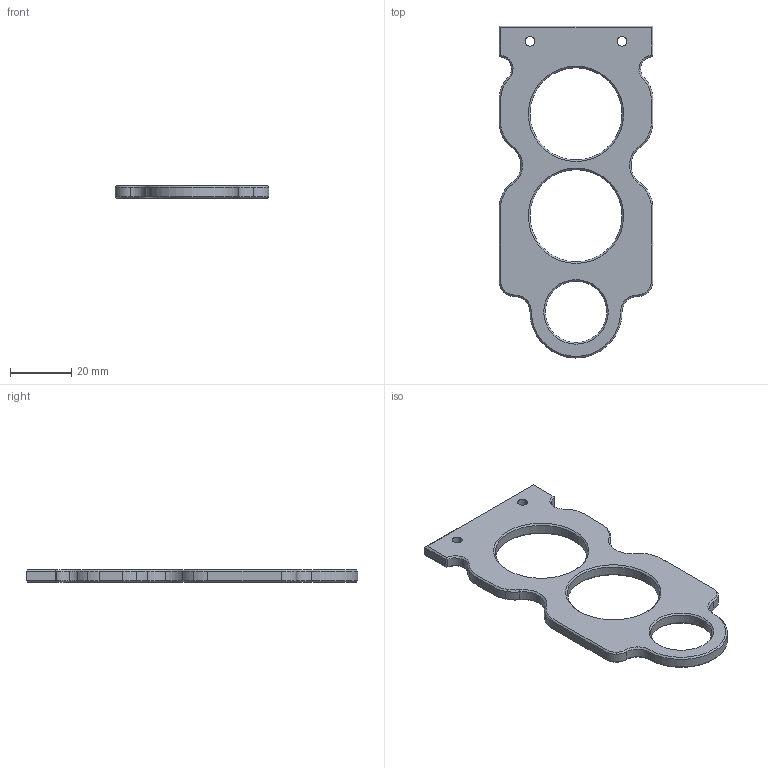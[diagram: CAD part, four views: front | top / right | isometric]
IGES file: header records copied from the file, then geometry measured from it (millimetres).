
Start section: 3D InterOp IGES (Version 18 0 1), Spatial Corp. Copyright (c) 1999-2007.
Global section: file name: NoName; native system: Spatial Corp.; preprocessor: 3D InterOp ACIS/IGES; author: Noname; organization: Noname; date: 20100706.223821; units: millimetre
Bounding box: 50 x 108.08 x 4 mm (x, y, z)
Volume: 11549.9 mm3; surface area: 7843.4 mm2
Topology: 1 solids, 1 shells, 132 faces, 347 edges, 226 vertices
Faces by surface type: bspline 132
